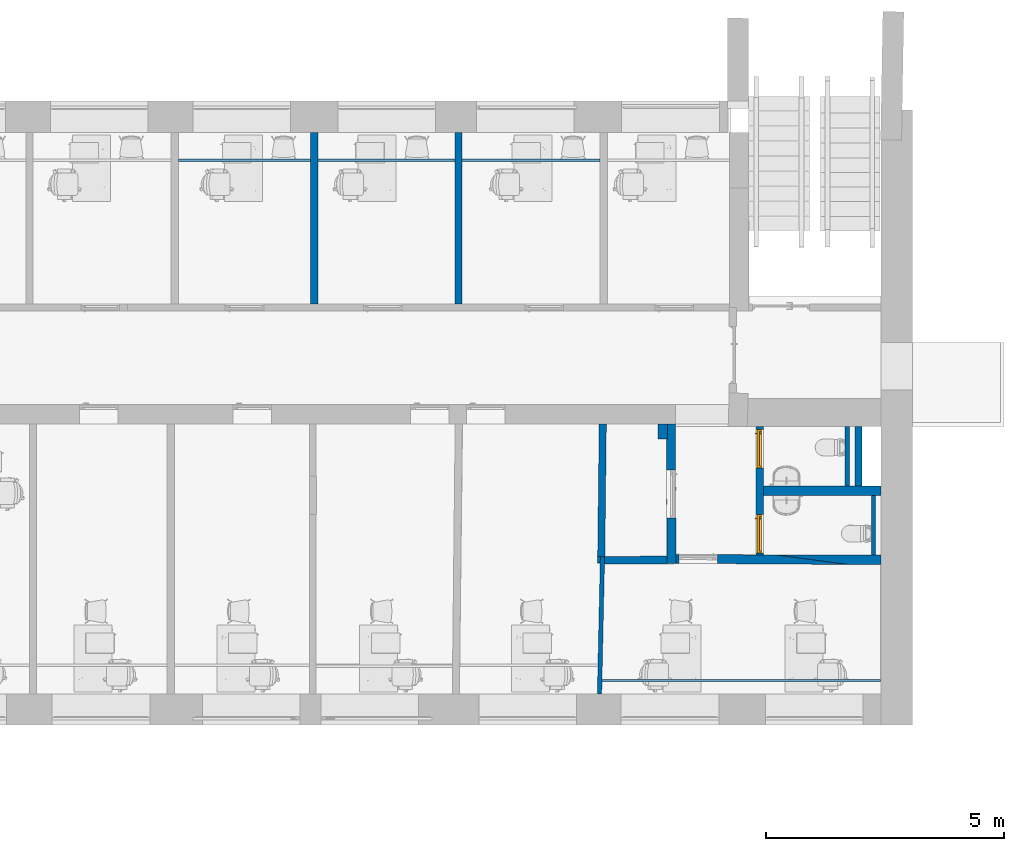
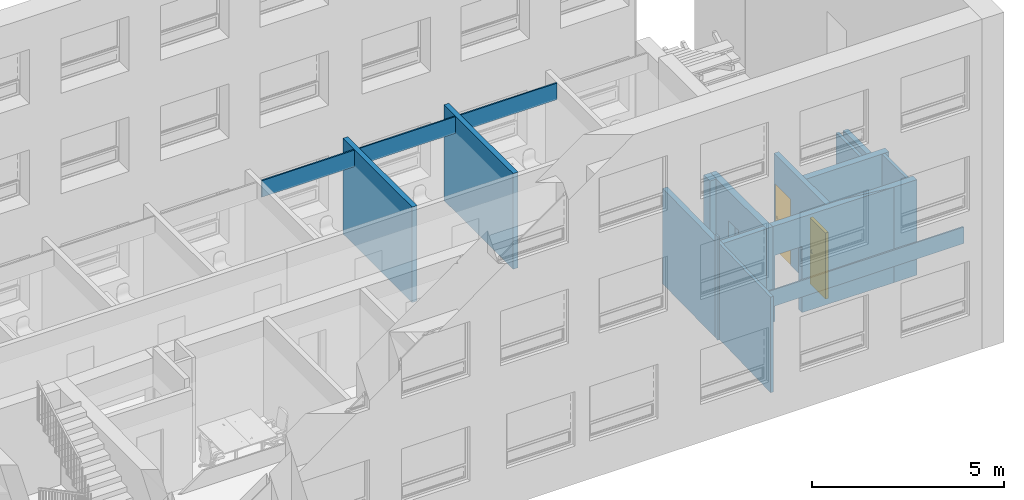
# One storey, part 11 of 25: 19 walls, 2 doors, 4 openings.
"""IFC2X3 building model written with IfcOpenShell, lengths in millimetres."""

from ifc_helpers import new_model, entity, si_unit, converted_unit, derived_unit, direction, frame, frame_2d, origin, place, context, subcontext, project, spatial, polyline, rectangle, outline, extrude, clip, bounded_halfspace, faceted_brep, source, transform, mapped, material, material_list, layer, layer_set, layer_usage, type_object, type_shapes, element, fill, save


model = new_model("IFC2X3")

# Units and contexts
model_context = context("Model", 3, precision=0.01, world=origin(), true_north=direction((6.12303176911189e-17, 1.0)))
context_of_model = context(None, 3, precision=0.01, world=origin(), true_north=direction((6.12303176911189e-17, 1.0)))
body_context = subcontext(model_context, "Body", "Model", "MODEL_VIEW")
ifc_project = project(units=[si_unit("LENGTHUNIT", "METRE", prefix="MILLI"), si_unit("AREAUNIT", "SQUARE_METRE"), si_unit("VOLUMEUNIT", "CUBIC_METRE"), converted_unit("PLANEANGLEUNIT", "DEGREE", entity("IfcRatioMeasure", 0.0174532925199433), si_unit("PLANEANGLEUNIT", "RADIAN"), dimensions=[0, 0, 0, 0, 0, 0, 0]), si_unit("MASSUNIT", "GRAM", prefix="KILO"), derived_unit("MASSDENSITYUNIT", [(si_unit("MASSUNIT", "GRAM", prefix="KILO"), 1), (si_unit("LENGTHUNIT", "METRE"), -3)]), si_unit("TIMEUNIT", "SECOND"), si_unit("FREQUENCYUNIT", "HERTZ"), si_unit("THERMODYNAMICTEMPERATUREUNIT", "DEGREE_CELSIUS"), derived_unit("THERMALTRANSMITTANCEUNIT", [(si_unit("MASSUNIT", "GRAM", prefix="KILO"), 1), (si_unit("THERMODYNAMICTEMPERATUREUNIT", "KELVIN"), -1), (si_unit("TIMEUNIT", "SECOND"), -3)]), derived_unit("VOLUMETRICFLOWRATEUNIT", [(si_unit("LENGTHUNIT", "METRE"), 3), (si_unit("TIMEUNIT", "SECOND"), -1)]), si_unit("ELECTRICCURRENTUNIT", "AMPERE"), si_unit("ELECTRICVOLTAGEUNIT", "VOLT"), si_unit("POWERUNIT", "WATT"), si_unit("FORCEUNIT", "NEWTON", prefix="KILO"), si_unit("ILLUMINANCEUNIT", "LUX"), si_unit("LUMINOUSFLUXUNIT", "LUMEN"), si_unit("LUMINOUSINTENSITYUNIT", "CANDELA"), derived_unit("USERDEFINED", [(si_unit("MASSUNIT", "GRAM", prefix="KILO"), -1), (si_unit("LENGTHUNIT", "METRE"), -2), (si_unit("TIMEUNIT", "SECOND"), 3), (si_unit("LUMINOUSFLUXUNIT", "LUMEN"), 1)]), derived_unit("LINEARVELOCITYUNIT", [(si_unit("LENGTHUNIT", "METRE"), 1), (si_unit("TIMEUNIT", "SECOND"), -1)]), si_unit("PRESSUREUNIT", "PASCAL"), derived_unit("USERDEFINED", [(si_unit("LENGTHUNIT", "METRE"), -2), (si_unit("MASSUNIT", "GRAM", prefix="KILO"), 1), (si_unit("TIMEUNIT", "SECOND"), -2)])], contexts=[model_context, context_of_model])

# Site, building, storey
site_placement = place(None, frame((121442.264707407, 135347.995453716, -1800.0)))
site = spatial("IfcSite", under=ifc_project, at=site_placement, Name="Surface", CompositionType="ELEMENT")
building_placement = place(site_placement, origin())
building = spatial("IfcBuilding", under=site, at=building_placement, CompositionType="ELEMENT")
storey_placement = place(building_placement, frame((0.0, 0.0, 1800.0)))
storey = spatial("IfcBuildingStorey", under=building, at=storey_placement, Name="1 korrus", CompositionType="ELEMENT", Elevation=1800.00000000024)

# Walls
ifc_material_1 = material(Name="__Betoonelement")
ifc_layer_1 = layer(ifc_material_1, 200.0)
ifc_layer_set_1 = layer_set([ifc_layer_1], Name="Basic Wall:20_Betoon")
ifc_layer_usage_1 = layer_usage(ifc_layer_set_1, "AXIS2", "NEGATIVE", 100.0)
wall_type_1 = type_object("IfcWallType", Name="Basic Wall:20_Betoon", PredefinedType="STANDARD", material=ifc_layer_set_1)
wall_1_placement = place(storey_placement, frame((-82525.9803800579, -124319.821119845, 0.0), z_axis=(0.0, 0.0, 1.0), x_axis=(-1.0, 0.0, 0.0)))
element("IfcWallStandardCase", 1, at=wall_1_placement, inside=storey, type_object=wall_type_1, material=ifc_layer_usage_1, Name="Basic Wall:20_Betoon", ObjectType="Basic Wall:20_Betoon:397", context=body_context, shape_type="Clipping", body=[
    clip(extrude(outline(polyline([(2200.68359944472, -100.0), (691.662979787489, 100.0), (0.0, 100.0), (0.0, -100.0), (2200.68359944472, -100.0)])), origin(), (0.0, 0.0, 1.0), 3032.0), bounded_halfspace(frame((0.0, -100.0, 3032.0), z_axis=(0.0, 0.0, -1.0), x_axis=(0.0, 1.0, 0.0)), True, frame((0.0, -100.0, 3032.0)), polyline([(0.0, 0.0), (2200.68359944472, 0.0), (691.662979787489, 200.0), (0.0, 200.0), (0.0, 0.0)]))),
])
ifc_layer_usage_2 = layer_usage(ifc_layer_set_1, "AXIS2", "POSITIVE", -100.0)
wall_2_placement = place(storey_placement, frame((-87118.3799850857, -121789.059868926, 0.0), z_axis=(0.0, 0.0, 1.0), x_axis=(0.0, 1.0, 0.0)))
element("IfcWallStandardCase", 2, at=wall_2_placement, inside=storey, type_object=wall_type_1, material=ifc_layer_usage_2, Name="Basic Wall:20_Betoon", ObjectType="Basic Wall:20_Betoon:397", context=body_context, shape_type="Clipping", body=[
    clip(extrude(rectangle(XDim=325.000000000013, YDim=199.999999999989, at=frame_2d((162.500000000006, 0.0), x_axis=(-1.0, 0.0))), origin(), (0.0, 0.0, 1.0), 3032.0), bounded_halfspace(frame((0.0, -100.0, 3032.0), z_axis=(0.0, 0.0, -1.0), x_axis=(-1.0, 0.0, 0.0)), True, frame((0.0, -100.0, 3032.0)), polyline([(0.0, 0.0), (325.0, 0.0), (325.0, 200.0), (0.0, 200.0), (0.0, 14.9463878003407), (0.0, 0.0)]))),
])
ifc_layer_usage_3 = layer_usage(ifc_layer_set_1, "AXIS2", "POSITIVE", -100.0)
wall_3_placement = place(storey_placement, frame((-82525.9803800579, -122866.565564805, 0.0), z_axis=(0.0, 0.0, 1.0), x_axis=(-1.0, 0.0, 0.0)))
element("IfcWallStandardCase", 3, at=wall_3_placement, inside=storey, type_object=wall_type_1, material=ifc_layer_usage_3, Name="Basic Wall:20_Betoon", ObjectType="Basic Wall:20_Betoon:397", context=body_context, shape_type="Clipping", body=[
    clip(extrude(rectangle(XDim=2475.30660036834, YDim=199.999999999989, at=frame_2d((1237.65330018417, 0.0), x_axis=(-1.0, 0.0))), origin(), (0.0, 0.0, 1.0), 3032.0), bounded_halfspace(frame((420.0, -100.0, 3032.0), z_axis=(0.0, 0.0, -1.0), x_axis=(0.0, 1.0, 0.0)), True, frame((420.0, -100.0, 3032.0)), polyline([(0.0, 0.0), (743.343819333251, 0.0), (953.343819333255, 0.0), (2055.30660036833, 0.0), (2055.30660036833, 200.0), (953.343819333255, 200.0), (743.343819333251, 200.0), (0.0, 200.0), (-420.0, 200.0), (-420.0, 115.801503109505), (0.0, 115.801503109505), (0.0, 0.0)]))),
])
ifc_layer_2 = layer(ifc_material_1, 150.0)
ifc_layer_set_2 = layer_set([ifc_layer_2], Name="Basic Wall:15_Betoon")
ifc_layer_usage_4 = layer_usage(ifc_layer_set_2, "AXIS2", "NEGATIVE", 75.0)
wall_type_2 = type_object("IfcWallType", Name="Basic Wall:15_Betoon", PredefinedType="STANDARD", material=ifc_layer_set_2)
wall_4_placement = place(storey_placement, frame((-88405.5822090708, -124250.560476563, 0.0), z_axis=(0.0, 0.0, 1.0), x_axis=(0.011563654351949, 0.999933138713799, 0.0)))
element("IfcWallStandardCase", 4, at=wall_4_placement, inside=storey, type_object=wall_type_2, material=ifc_layer_usage_4, Name="Basic Wall:15_Betoon", ObjectType="Basic Wall:15_Betoon", context=body_context, shape_type="SweptSolid", body=[
    extrude(outline(polyline([(-101.160893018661, -1989.56550092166), (48.8491368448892, -1989.56550092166), (81.0633917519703, 796.067832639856), (80.4339451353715, 796.065678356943), (24.8973889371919, 795.875604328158), (-65.1303940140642, 795.567483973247), (-68.9525756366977, 795.55440254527), (-101.160893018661, -1989.56550092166)])), frame((796.951995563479, 3.14748150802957, 0.0), z_axis=(0.0, 0.0, 1.0), x_axis=(-0.011563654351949, 0.999933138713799, 0.0)), (0.0, 0.0, 1.0), 3032.0),
])
ifc_layer_3 = layer(ifc_material_1, 160.0)
ifc_layer_set_3 = layer_set([ifc_layer_3], Name="Basic Wall:16_Betoon 2")
ifc_layer_usage_5 = layer_usage(ifc_layer_set_3, "AXIS2", "NEGATIVE", 80.0)
wall_type_3 = type_object("IfcWallType", Name="Basic Wall:16_Betoon 2", PredefinedType="STANDARD", material=ifc_layer_set_3)
wall_5_placement = place(storey_placement, frame((-87026.5004713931, -124324.717089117, 0.0), z_axis=(0.0, 0.0, 1.0), x_axis=(-0.999994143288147, -0.00342248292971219, 0.0)))
element("IfcWallStandardCase", 5, at=wall_5_placement, inside=storey, type_object=wall_type_3, material=ifc_layer_usage_5, Name="Basic Wall:16_Betoon 2", ObjectType="Basic Wall:16_Betoon 2", context=body_context, shape_type="SweptSolid", body=[
    extrude(outline(polyline([(-61.8945442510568, -655.495774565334), (98.1557850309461, -655.495774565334), (65.2680171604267, 655.601378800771), (55.1458288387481, 655.355112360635), (-94.68469590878, 651.709830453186), (-61.990390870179, -651.674772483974), (-61.8945442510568, -655.495774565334)])), frame((653.879233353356, -1.68753012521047, 0.0), z_axis=(0.0, 0.0, 1.0), x_axis=(0.0250762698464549, 0.999685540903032, 0.0)), (0.0, 0.0, 1.0), 3032.0),
])

# Wall, opening
ifc_layer_4 = layer(ifc_material_1, 190.0)
ifc_layer_set_4 = layer_set([ifc_layer_4], Name="Basic Wall:19_Betoon 2")
ifc_layer_usage_6 = layer_usage(ifc_layer_set_4, "AXIS2", "NEGATIVE", 95.0)
wall_type_4 = type_object("IfcWallType", Name="Basic Wall:19_Betoon 2", PredefinedType="STANDARD", material=ifc_layer_set_4)
wall_6_placement = place(storey_placement, frame((-86939.1925124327, -121464.313343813, 0.0), z_axis=(0.0, 0.0, 1.0), x_axis=(0.0026681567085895, -0.999996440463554, 0.0)))
wall_6 = element("IfcWallStandardCase", 6, at=wall_6_placement, inside=storey, type_object=wall_type_4, material=ifc_layer_usage_6, Name="Basic Wall:19_Betoon 2", ObjectType="Basic Wall:19_Betoon 2", context=body_context, shape_type="Clipping", body=[
    clip(clip(clip(extrude(outline(polyline([(2930.03549692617, -95.0), (2931.80104966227, 95.0), (2741.7928467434, 95.0), (0.0, 95.0), (-0.464758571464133, -79.1865144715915), (324.534084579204, -80.0536654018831), (324.494205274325, -95.0), (2780.16063503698, -95.0), (2930.03549692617, -95.0)])), origin(), (0.0, 0.0, 1.0), 3032.0), bounded_halfspace(frame((2930.03549692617, -95.0, 3032.0), z_axis=(0.0, 0.0, -1.0), x_axis=(0.999996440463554, -0.0026681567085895, 0.0)), True, frame((2930.03549692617, -95.0, 3032.0)), polyline([(0.0, 0.0), (1.76555273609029, 190.0), (-188.242650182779, 190.0), (-2930.03549692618, 190.0), (-2930.50025549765, 15.8134855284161), (-2605.50141234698, 14.9463345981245), (-2605.54129165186, 0.0), (-149.874861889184, 0.0), (0.0, 0.0)]))), bounded_halfspace(frame((324.534084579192, -80.0536654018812, 0.0), z_axis=(0.0026681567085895, 0.999996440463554, 0.0), x_axis=(-0.999996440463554, 0.0026681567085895, 0.0)), True, frame((324.534084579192, -80.0536654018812, 0.0), z_axis=(0.0026681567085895, 0.999996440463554, 0.0), x_axis=(-0.999996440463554, 0.0026681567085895, 0.0)), polyline([(0.0, 0.0), (325.0, 0.0), (325.0, 3032.0), (0.0, 3032.0), (0.0, 0.0)]))), bounded_halfspace(frame((324.534084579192, -80.0536654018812, 3032.0), z_axis=(0.999996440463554, -0.0026681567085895, 0.0), x_axis=(-0.0026681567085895, -0.999996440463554, 0.0)), True, frame((324.534084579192, -80.0536654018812, 3032.0), z_axis=(0.999996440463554, -0.0026681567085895, 0.0), x_axis=(-0.0026681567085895, -0.999996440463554, 0.0)), polyline([(0.0, 0.0), (14.9463878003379, 0.0), (14.9463878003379, 3032.0), (0.0, 3032.0), (0.0, 0.0)]))),
])
opening_1_placement = place(wall_6_placement, frame((970.919265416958, -96.3474191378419, 0.0)))
element("IfcOpeningElement", 7, at=opening_1_placement, cuts=wall_6, Name="sma_D01:1010 x 2110_SU-05 Siseuks:1", ObjectType="Opening", context=body_context, shape_type="SweptSolid", body=[
    extrude(rectangle(XDim=2099.99999999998, YDim=1010.0, at=frame_2d((1049.99999999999, 505.0), x_axis=(1.0, 0.0))), frame((0.0, 0.0, 0.0), z_axis=(-0.0026681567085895, 0.999996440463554, 0.0), x_axis=(0.0, 0.0, 1.0)), (0.0, 0.0, 1.0), 190.0),
])

ifc_layer_usage_7 = layer_usage(ifc_layer_set_4, "AXIS2", "NEGATIVE", 95.0)
wall_7_placement = place(storey_placement, frame((-83217.0140886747, -124324.823203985, 0.0), z_axis=(0.0, 0.0, 1.0), x_axis=(-0.99997806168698, 0.00662390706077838, 0.0)))
wall_7 = element("IfcWallStandardCase", 8, at=wall_7_placement, inside=storey, type_object=wall_type_4, material=ifc_layer_usage_7, Name="Basic Wall:19_Betoon 2", ObjectType="Basic Wall:19_Betoon 2", context=body_context, shape_type="Clipping", body=[
    clip(extrude(outline(polyline([(1510.31229570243, -95.0), (3620.57192934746, -95.0), (3618.80637661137, 95.0), (0.0, 95.0), (1510.31229570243, -95.0)])), origin(), (0.0, 0.0, 1.0), 3032.0), bounded_halfspace(frame((1510.31229570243, -95.0, 3032.0), z_axis=(0.0, 0.0, -1.0), x_axis=(-0.00662390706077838, 0.99997806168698, 0.0)), True, frame((1510.31229570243, -95.0, 3032.0)), polyline([(0.0, 0.0), (2110.25963364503, 0.0), (2108.49408090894, 190.0), (-1510.31229570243, 190.0), (0.0, 0.0)]))),
])
opening_2_placement = place(wall_7_placement, frame((3556.81162531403, 95.0, 0.0)))
element("IfcOpeningElement", 9, at=opening_2_placement, cuts=wall_7, Name="sma_D01:810 x 2110_SU-01 Siseuks:1", ObjectType="Opening", context=body_context, shape_type="SweptSolid", body=[
    extrude(rectangle(XDim=2099.99999999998, YDim=810.0, at=frame_2d((1049.99999999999, 405.0), x_axis=(1.0, 0.0))), frame((0.0, 0.0, 0.0), z_axis=(0.0, -1.0, 0.0), x_axis=(0.0, 0.0, 1.0)), (0.0, 0.0, 1.0), 190.0),
])

# Walls
ifc_layer_5 = layer(ifc_material_1, 90.0)
ifc_layer_set_5 = layer_set([ifc_layer_5], Name="Basic Wall:9_Betoon 2")
ifc_layer_usage_8 = layer_usage(ifc_layer_set_5, "AXIS2", "NEGATIVE", 45.0)
wall_type_5 = type_object("IfcWallType", Name="Basic Wall:9_Betoon 2", PredefinedType="STANDARD", material=ifc_layer_set_5)
wall_8_placement = place(storey_placement, frame((-88441.9423106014, -127136.95547772, 0.0), z_axis=(0.0, 0.0, 1.0), x_axis=(0.0216547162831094, 0.999765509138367, 0.0)))
element("IfcWallStandardCase", 10, at=wall_8_placement, inside=storey, type_object=wall_type_5, material=ifc_layer_usage_8, Name="Basic Wall:9_Betoon 2", ObjectType="Basic Wall:9_Betoon 2", context=body_context, shape_type="Clipping", body=[
    clip(extrude(outline(polyline([(2889.41462745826, -45.0), (2887.15705325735, 45.0), (2745.43191733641, 45.0), (0.0, 45.0), (1.94938157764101, -45.0), (2729.36429817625, -45.0), (2889.41462745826, -45.0)])), origin(), (0.0, 0.0, 1.0), 3032.0), bounded_halfspace(frame((1.94938157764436, -45.0, 3032.0), z_axis=(0.0, 0.0, -1.0), x_axis=(-0.999765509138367, -0.0216547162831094, 0.0)), True, frame((1.94938157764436, -45.0, 3032.0)), polyline([(0.0, 0.0), (2727.41491659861, 0.0), (2887.46524588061, 0.0), (2885.2076716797, 90.0), (2743.48253575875, 90.0), (-1.94938157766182, 90.0), (0.0, 0.0)]))),
])
wall_type_6 = type_object("IfcWallType", Name="Walls 1:Walls 1", PredefinedType="NOTDEFINED")
wall_9_placement = place(storey_placement, frame((-88485.7074700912, -124391.192876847, 0.0), z_axis=(0.0, 0.0, 1.0), x_axis=(0.0, 1.0, 0.0)))
element("IfcWall", 11, at=wall_9_placement, inside=storey, type_object=wall_type_6, Name="Walls 1:Walls 1", ObjectType="Walls 1:Walls 1", context=body_context, shape_type="SweptSolid", body=[
    extrude(outline(polyline([(-69.6053129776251, -28.4154899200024), (72.0136896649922, -28.4154899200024), (69.6455551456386, 29.7635943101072), (-72.053931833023, 27.0673855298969), (-69.6053129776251, -28.4154899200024)])), frame((70.7984328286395, -31.3208153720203, 0.0), z_axis=(0.0, 0.0, 1.0), x_axis=(-0.999172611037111, 0.0406705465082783, 0.0)), (0.0, 0.0, 1.0), 3270.0),
])

# Wall, openings, doors
ifc_material_2 = material(Name="Plaster")
ifc_layer_6 = layer(ifc_material_2, 10.0)
ifc_material_3 = material(Name="EST. Müüritis. Väikeplokk. Kergkruusplokk")
ifc_layer_7 = layer(ifc_material_3, 130.0)
ifc_layer_8 = layer(ifc_material_2, 10.0)
ifc_layer_set_6 = layer_set([ifc_layer_6, ifc_layer_7, ifc_layer_8], Name="Basic Wall:15_FIBO")
ifc_layer_usage_9 = layer_usage(ifc_layer_set_6, "AXIS2", "POSITIVE", -75.0)
wall_type_7 = type_object("IfcWallType", Name="Basic Wall:15_FIBO", PredefinedType="STANDARD", material=ifc_layer_set_6)
wall_10_placement = place(storey_placement, frame((-85076.2869804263, -121524.099932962, 0.0), z_axis=(0.0, 0.0, 1.0), x_axis=(0.0, -1.0, 0.0)))
wall_10 = element("IfcWallStandardCase", 12, at=wall_10_placement, inside=storey, type_object=wall_type_7, material=ifc_layer_usage_9, Name="Basic Wall:15_FIBO", ObjectType="Basic Wall:15_FIBO", context=body_context, shape_type="Clipping", body=[
    clip(extrude(outline(polyline([(0.0, -75.0), (2692.90846188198, -75.0), (2693.90206973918, 75.0), (0.0, 75.0), (0.0, -75.0)])), origin(), (0.0, 0.0, 1.0), 3032.0), bounded_halfspace(frame((0.0, -75.0, 3032.0), z_axis=(0.0, 0.0, -1.0), x_axis=(1.0, 0.0, 0.0)), True, frame((0.0, -75.0, 3032.0)), polyline([(0.0, 0.0), (2692.90846188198, 0.0), (2693.90206973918, 150.0), (0.0, 150.0), (0.0, 0.0)]))),
])
opening_3_placement = place(wall_10_placement, frame((870.0, 75.0, 0.0)))
opening_3 = element("IfcOpeningElement", 13, at=opening_3_placement, cuts=wall_10, Name="sma_D01:810 x 2110_SU-04 Siseuks:1", ObjectType="Opening", context=body_context, shape_type="SweptSolid", body=[
    extrude(rectangle(XDim=2099.99999999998, YDim=810.0, at=frame_2d((1049.99999999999, 405.000000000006), x_axis=(1.0, 0.0))), frame((0.0, 0.0, 0.0), z_axis=(0.0, -1.0, 0.0), x_axis=(0.0, 0.0, 1.0)), (0.0, 0.0, 1.0), 150.0),
])
opening_4_placement = place(wall_10_placement, frame((2652.46563184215, 75.0, 0.0)))
opening_4 = element("IfcOpeningElement", 14, at=opening_4_placement, cuts=wall_10, Name="sma_D01:810 x 2110_SU-04 Siseuks:1", ObjectType="Opening", context=body_context, shape_type="SweptSolid", body=[
    extrude(rectangle(XDim=2099.99999999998, YDim=810.0, at=frame_2d((1049.99999999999, 405.000000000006), x_axis=(1.0, 0.0))), frame((0.0, 0.0, 0.0), z_axis=(0.0, -1.0, 0.0), x_axis=(0.0, 0.0, 1.0)), (0.0, 0.0, 1.0), 150.0),
])
ifc_material_4 = material(Name="Metal - Aluminium")
ifc_material_5 = material(Name="Door - Panel_valge")
ifc_material_list_1 = material_list([ifc_material_4, ifc_material_5])
ifc_material_list_2 = material_list([ifc_material_4, ifc_material_5])
door_style = type_object("IfcDoorStyle", Name="810 x 2110_SU-04 Siseuks", ConstructionType="NOTDEFINED", OperationType="SINGLE_SWING_LEFT", ParameterTakesPrecedence=False, Sizeable=False, material=ifc_material_list_2)
shared_shape = source(origin(), body_context, "Body", "Brep", [
    faceted_brep([(710.0, 40.0, 1112.5), (615.0, 40.0, 1112.5), (615.0, 35.0, 1112.5), (735.0, 35.0, 1112.5), (735.0, 78.0, 1112.5), (710.0, 78.0, 1112.5), (710.0, 40.0, 1087.5), (710.0, 78.0, 1087.5), (735.0, 78.0, 1087.5), (735.0, 35.0, 1087.5), (615.0, 35.0, 1087.5), (615.0, 40.0, 1087.5)], [[[0, 1, 2, 3, 4, 5]], [[6, 7, 8, 9, 10, 11]], [[5, 7, 6, 0]], [[4, 8, 7, 5]], [[3, 9, 8, 4]], [[2, 10, 9, 3]], [[1, 11, 10, 2]], [[0, 6, 11, 1]]]),
    faceted_brep([(697.500000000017, 78.0, 1137.5), (747.500000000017, 78.0, 1137.5), (747.500000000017, 80.0, 1137.5), (697.500000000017, 80.0, 1137.5), (697.500000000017, 78.0, 1017.5), (697.500000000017, 80.0, 1017.5), (747.500000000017, 80.0, 1017.5), (747.500000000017, 78.0, 1017.5)], [[[0, 1, 2, 3]], [[4, 5, 6, 7]], [[3, 5, 4, 0]], [[2, 6, 5, 3]], [[1, 7, 6, 2]], [[0, 4, 7, 1]]]),
    faceted_brep([(710.0, 170.0, 1112.5), (710.0, 132.0, 1112.5), (735.0, 132.0, 1112.5), (735.0, 175.0, 1112.5), (615.0, 175.0, 1112.5), (615.0, 170.0, 1112.5), (710.0, 170.0, 1087.5), (615.0, 170.0, 1087.5), (615.0, 175.0, 1087.5), (735.0, 175.0, 1087.5), (735.0, 132.0, 1087.5), (710.0, 132.0, 1087.5)], [[[0, 1, 2, 3, 4, 5]], [[6, 7, 8, 9, 10, 11]], [[1, 0, 6, 11]], [[2, 1, 11, 10]], [[3, 2, 10, 9]], [[4, 3, 9, 8]], [[5, 4, 8, 7]], [[0, 5, 7, 6]]]),
    faceted_brep([(697.500000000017, 132.0, 1137.5), (697.500000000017, 130.0, 1137.5), (747.500000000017, 130.0, 1137.5), (747.500000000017, 132.0, 1137.5), (697.500000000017, 132.0, 1017.5), (747.500000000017, 132.0, 1017.5), (747.500000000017, 130.0, 1017.5), (697.500000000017, 130.0, 1017.5)], [[[0, 1, 2, 3]], [[4, 5, 6, 7]], [[1, 0, 4, 7]], [[2, 1, 7, 6]], [[3, 2, 6, 5]], [[0, 3, 5, 4]]]),
    faceted_brep([(0.0, 40.0, 0.0), (0.0, 130.0, 0.0), (25.0, 130.0, 0.0), (25.0, 80.0, 0.0), (40.0, 80.0, 0.0), (40.0, 40.0, 0.0), (40.0, 40.0, 2060.0), (770.0, 40.0, 2060.0), (770.0, 40.0, 0.0), (810.0, 40.0, 0.0), (810.0, 40.0, 2100.0), (0.0, 40.0, 2100.0), (40.0, 80.0, 2060.0), (25.0, 80.0, 2075.0), (785.0, 80.0, 2075.0), (785.0, 80.0, 0.0), (770.0, 80.0, 0.0), (770.0, 80.0, 2060.0), (25.0, 130.0, 2075.0), (0.0, 130.0, 2100.0), (810.0, 130.0, 2100.0), (810.0, 130.0, 0.0), (785.0, 130.0, 0.0), (785.0, 130.0, 2075.0)], [[[0, 1, 2, 3, 4, 5]], [[5, 6, 7, 8, 9, 10, 11, 0]], [[4, 12, 6, 5]], [[3, 13, 14, 15, 16, 17, 12, 4]], [[2, 18, 13, 3]], [[1, 19, 20, 21, 22, 23, 18, 2]], [[0, 11, 19, 1]], [[10, 9, 21, 20]], [[9, 8, 16, 15, 22, 21]], [[17, 16, 8, 7]], [[23, 22, 15, 14]], [[12, 17, 7, 6]], [[18, 23, 14, 13]], [[11, 10, 20, 19]]]),
    faceted_brep([(785.0, 80.0, 2075.0), (25.0, 80.0, 2075.0), (25.0, 80.0, 20.0), (785.0, 80.0, 20.0), (785.0, 130.0, 2075.0), (785.0, 130.0, 20.0), (25.0, 130.0, 20.0), (25.0, 130.0, 2075.0)], [[[0, 1, 2, 3]], [[4, 5, 6, 7]], [[3, 5, 4, 0]], [[2, 6, 5, 3]], [[1, 7, 6, 2]], [[0, 4, 7, 1]]]),
    faceted_brep([(40.0, 40.0, 30.0), (40.0, 80.0, 30.0), (40.0, 80.0, 20.0), (40.0, 80.0, 0.0), (40.0, 40.0, 0.0), (770.0, 40.0, 30.0), (770.0, 40.0, 0.0), (770.0, 80.0, 0.0), (770.0, 80.0, 20.0), (770.0, 80.0, 30.0), (25.0, 80.0, 0.0), (25.0, 130.0, 0.0), (785.0, 130.0, 0.0), (785.0, 80.0, 0.0), (25.0, 130.0, 20.0), (25.0, 80.0, 20.0), (785.0, 130.0, 20.0), (785.0, 80.0, 20.0)], [[[0, 1, 2, 3, 4]], [[5, 6, 7, 8, 9]], [[4, 6, 5, 0]], [[3, 10, 11, 12, 13, 7, 6, 4]], [[9, 8, 2, 1]], [[0, 5, 9, 1]], [[14, 11, 10, 15]], [[16, 17, 13, 12]], [[15, 2, 8, 17, 16, 14]], [[10, 3, 2, 15]], [[14, 16, 12, 11]], [[17, 8, 7, 13]]]),
])
type_shapes(door_style, [shared_shape])
door_1_placement = place(opening_3_placement, frame((0.0, 0.0, 0.0), z_axis=(0.0, 0.0, 1.0), x_axis=(-1.0, 0.0, 0.0)))
door_1 = element("IfcDoor", 15, at=door_1_placement, inside=storey, type_object=door_style, material=ifc_material_list_1, Name="sma_D01:810 x 2110_SU-04 Siseuks", ObjectType="810 x 2110_SU-04 Siseuks", OverallHeight=2099.99999999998, OverallWidth=810.000000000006, context=body_context, shape_type="MappedRepresentation", body=[
    mapped(shared_shape, transform((0.0, 0.0, 0.0), scale=1.0)),
])
fill(opening_3, door_1)
ifc_material_list_3 = material_list([ifc_material_4, ifc_material_5])
door_2_placement = place(opening_4_placement, frame((0.0, 0.0, 0.0), z_axis=(0.0, 0.0, 1.0), x_axis=(-1.0, 0.0, 0.0)))
door_2 = element("IfcDoor", 16, at=door_2_placement, inside=storey, type_object=door_style, material=ifc_material_list_3, Name="sma_D01:810 x 2110_SU-04 Siseuks", ObjectType="810 x 2110_SU-04 Siseuks", OverallHeight=2099.99999999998, OverallWidth=810.000000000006, context=body_context, shape_type="MappedRepresentation", body=[
    mapped(shared_shape, transform((0.0, 0.0, 0.0), scale=1.0)),
])
fill(opening_4, door_2)

# Walls
ifc_layer_usage_10 = layer_usage(ifc_layer_set_6, "AXIS2", "POSITIVE", -75.0)
wall_11_placement = place(storey_placement, frame((-91403.0171408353, -118944.76856454, 0.0), z_axis=(0.0, 0.0, 1.0), x_axis=(0.0, 1.0, 0.0)))
element("IfcWallStandardCase", 17, at=wall_11_placement, inside=storey, type_object=wall_type_7, material=ifc_layer_usage_10, Name="Basic Wall:15_FIBO", ObjectType="Basic Wall:15_FIBO", context=body_context, shape_type="Clipping", body=[
    clip(extrude(rectangle(XDim=3602.84945220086, YDim=150.000000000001, at=frame_2d((1801.42472610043, 0.0), x_axis=(-1.0, 0.0))), origin(), (0.0, 0.0, 1.0), 3032.0), bounded_halfspace(frame((0.0, -75.0, 3032.0), z_axis=(0.0, 0.0, -1.0), x_axis=(-1.0, 0.0, 0.0)), True, frame((0.0, -75.0, 3032.0)), polyline([(0.0, 0.0), (3602.84945220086, 0.0), (3602.84945220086, 150.0), (0.0, 150.0), (0.0, 0.0)]))),
])
ifc_layer_usage_11 = layer_usage(ifc_layer_set_6, "AXIS2", "POSITIVE", -75.0)
wall_12_placement = place(storey_placement, frame((-94433.0171408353, -118944.76856454, 0.0), z_axis=(0.0, 0.0, 1.0), x_axis=(0.0, 1.0, 0.0)))
element("IfcWallStandardCase", 18, at=wall_12_placement, inside=storey, type_object=wall_type_7, material=ifc_layer_usage_11, Name="Basic Wall:15_FIBO", ObjectType="Basic Wall:15_FIBO", context=body_context, shape_type="Clipping", body=[
    clip(extrude(rectangle(XDim=3602.84945220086, YDim=150.000000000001, at=frame_2d((1801.42472610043, 0.0), x_axis=(-1.0, 0.0))), origin(), (0.0, 0.0, 1.0), 3032.0), bounded_halfspace(frame((0.0, -75.0, 3032.0), z_axis=(0.0, 0.0, -1.0), x_axis=(-1.0, 0.0, 0.0)), True, frame((0.0, -75.0, 3032.0)), polyline([(0.0, 0.0), (3602.84945220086, 0.0), (3602.84945220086, 150.0), (0.0, 150.0), (0.0, 0.0)]))),
])
ifc_layer_usage_12 = layer_usage(ifc_layer_set_6, "AXIS2", "NEGATIVE", 75.0)
wall_13_placement = place(storey_placement, frame((-83000.9803800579, -121524.099932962, 0.0), z_axis=(0.0, 0.0, 1.0), x_axis=(0.0, -1.0, 0.0)))
element("IfcWallStandardCase", 19, at=wall_13_placement, inside=storey, type_object=wall_type_7, material=ifc_layer_usage_12, Name="Basic Wall:15_FIBO", ObjectType="Basic Wall:15_FIBO", context=body_context, shape_type="SweptSolid", body=[
    extrude(rectangle(XDim=1242.46563184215, YDim=150.000000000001, at=frame_2d((621.232815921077, 0.0), x_axis=(-1.0, 0.0))), origin(), (0.0, 0.0, 1.0), 3025.0),
])
ifc_material_6 = material(Name="Metal - Stud Layer")
ifc_layer_9 = layer(ifc_material_6, 30.0)
ifc_material_7 = material(Name="Gypsum Wall Board")
ifc_layer_10 = layer(ifc_material_7, 13.0)
ifc_layer_set_7 = layer_set([ifc_layer_9, ifc_layer_10], Name="Basic Wall:Kipssirm 1 kordne")
ifc_layer_usage_13 = layer_usage(ifc_layer_set_7, "AXIS2", "POSITIVE", -21.5)
wall_type_8 = type_object("IfcWallType", Name="Basic Wall:Kipssirm 1 kordne", PredefinedType="STANDARD", material=ifc_layer_set_7)
wall_14_placement = place(storey_placement, frame((-97288.9992997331, -115928.952432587, 2500.0)))
element("IfcWallStandardCase", 20, at=wall_14_placement, inside=storey, type_object=wall_type_8, material=ifc_layer_usage_13, Name="Basic Wall:Kipssirm 1 kordne", ObjectType="Basic Wall:Kipssirm 1 kordne", context=body_context, shape_type="SweptSolid", body=[
    extrude(rectangle(XDim=2780.98215889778, YDim=43.0000000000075, at=frame_2d((1390.49107944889, 1.50990331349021e-13), x_axis=(-1.0, 0.0))), origin(), (0.0, 0.0, 1.0), 525.0),
])
ifc_layer_usage_14 = layer_usage(ifc_layer_set_7, "AXIS2", "POSITIVE", -21.5)
wall_15_placement = place(storey_placement, frame((-94358.0171408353, -115928.952432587, 2500.0)))
element("IfcWallStandardCase", 21, at=wall_15_placement, inside=storey, type_object=wall_type_8, material=ifc_layer_usage_14, Name="Basic Wall:Kipssirm 1 kordne", ObjectType="Basic Wall:Kipssirm 1 kordne", context=body_context, shape_type="SweptSolid", body=[
    extrude(rectangle(XDim=2880.0, YDim=43.0000000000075, at=frame_2d((1440.0, 1.4210854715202e-14), x_axis=(-1.0, 0.0))), origin(), (0.0, 0.0, 1.0), 525.0),
])
ifc_layer_usage_15 = layer_usage(ifc_layer_set_7, "AXIS2", "POSITIVE", -21.5)
wall_16_placement = place(storey_placement, frame((-91328.0171408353, -115928.952432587, 2500.0)))
element("IfcWallStandardCase", 22, at=wall_16_placement, inside=storey, type_object=wall_type_8, material=ifc_layer_usage_15, Name="Basic Wall:Kipssirm 1 kordne", ObjectType="Basic Wall:Kipssirm 1 kordne", context=body_context, shape_type="SweptSolid", body=[
    extrude(rectangle(XDim=2899.01784110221, YDim=43.0000000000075, at=frame_2d((1449.50892055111, 2.66453525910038e-14), x_axis=(-1.0, 0.0))), origin(), (0.0, 0.0, 1.0), 525.0),
])
ifc_layer_usage_16 = layer_usage(ifc_layer_set_7, "AXIS2", "NEGATIVE", 21.5)
wall_17_placement = place(storey_placement, frame((-88391.3440819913, -126857.481015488, 2500.0)))
element("IfcWallStandardCase", 23, at=wall_17_placement, inside=storey, type_object=wall_type_8, material=ifc_layer_usage_16, Name="Basic Wall:Kipssirm 1 kordne", ObjectType="Basic Wall:Kipssirm 1 kordne", context=body_context, shape_type="SweptSolid", body=[
    extrude(outline(polyline([(5850.64130897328, -21.5000000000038), (5850.64130897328, 21.5000000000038), (0.931371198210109, 21.5000000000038), (0.0, -21.5000000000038), (5850.64130897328, -21.5000000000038)])), origin(), (0.0, 0.0, 1.0), 525.0),
])
ifc_material_8 = material(Name="EST. Ehitusplaat. Kipsplaat")
ifc_layer_11 = layer(ifc_material_8, 12.5)
ifc_material_9 = material(Name="EST. Metall. Teras. Tsingitud")
ifc_layer_12 = layer(ifc_material_9, 75.0)
ifc_layer_set_8 = layer_set([ifc_layer_11, ifc_layer_12], Name="Basic Wall:WC_tagasein_ metallkarkassein 100(12.5+75)")
ifc_layer_usage_17 = layer_usage(ifc_layer_set_8, "AXIS2", "POSITIVE", -43.75)
wall_type_9 = type_object("IfcWallType", Name="Basic Wall:WC_tagasein_ metallkarkassein 100(12.5+75)", PredefinedType="STANDARD", material=ifc_layer_set_8)
wall_18_placement = place(storey_placement, frame((-83239.7303800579, -121524.099932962, 0.0), z_axis=(0.0, 0.0, 1.0), x_axis=(0.0, -1.0, 0.0)))
element("IfcWallStandardCase", 24, at=wall_18_placement, inside=storey, type_object=wall_type_9, material=ifc_layer_usage_17, Name="Basic Wall:WC_tagasein_ metallkarkassein 100(12.5+75)", ObjectType="Basic Wall:WC_tagasein_ metallkarkassein 100(12.5+75)", context=body_context, shape_type="SweptSolid", body=[
    extrude(rectangle(XDim=1242.46563184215, YDim=87.5000000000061, at=frame_2d((621.232815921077, 0.0), x_axis=(-1.0, 0.0))), origin(), (0.0, 0.0, 1.0), 3025.0),
])
ifc_layer_usage_18 = layer_usage(ifc_layer_set_8, "AXIS2", "POSITIVE", -43.75)
wall_19_placement = place(storey_placement, frame((-82689.730380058, -122966.565564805, 0.0), z_axis=(0.0, 0.0, 1.0), x_axis=(0.0, -1.0, 0.0)))
element("IfcWallStandardCase", 25, at=wall_19_placement, inside=storey, type_object=wall_type_9, material=ifc_layer_usage_18, Name="Basic Wall:WC_tagasein_ metallkarkassein 100(12.5+75)", ObjectType="Basic Wall:WC_tagasein_ metallkarkassein 100(12.5+75)", context=body_context, shape_type="SweptSolid", body=[
    extrude(rectangle(XDim=1253.25555504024, YDim=87.5000000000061, at=frame_2d((626.627777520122, 0.0), x_axis=(-1.0, 0.0))), origin(), (0.0, 0.0, 1.0), 3025.0),
])

save(model, "model.ifc")
